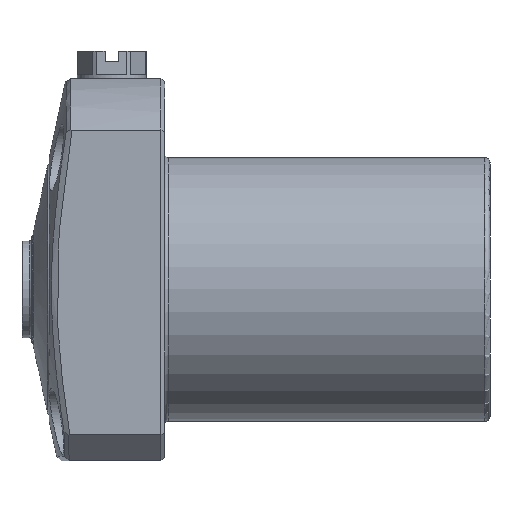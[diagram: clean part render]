
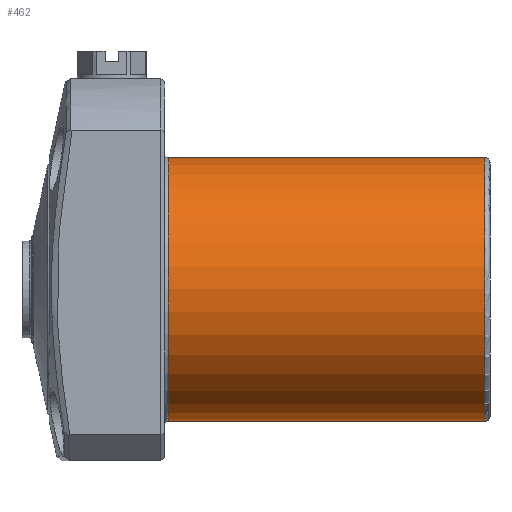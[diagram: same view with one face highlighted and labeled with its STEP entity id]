
A CAD part, left-side view. The second image highlights one B-rep face of the part: STEP entity #462.
In plain terms, the highlighted cylindrical face has radius 15 mm (diameter 30 mm), a partial arc.
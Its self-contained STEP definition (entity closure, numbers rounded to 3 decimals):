
#462=ADVANCED_FACE('',(#718),#586,.T.);
#586=CYLINDRICAL_SURFACE('',#3411,15.);
#718=FACE_OUTER_BOUND('',#921,.T.);
#921=EDGE_LOOP('',(#1893,#1894,#1895,#1896));
#1142=LINE('',#5311,#1317);
#1143=LINE('',#5313,#1318);
#1317=VECTOR('',#4073,1.);
#1318=VECTOR('',#4076,1.);
#1893=ORIENTED_EDGE('',*,*,#2746,.F.);
#1894=ORIENTED_EDGE('',*,*,#2850,.T.);
#1895=ORIENTED_EDGE('',*,*,#2748,.T.);
#1896=ORIENTED_EDGE('',*,*,#2694,.T.);
#2374=VERTEX_POINT('',#5118);
#2375=VERTEX_POINT('',#5120);
#2379=VERTEX_POINT('',#5147);
#2380=VERTEX_POINT('',#5149);
#2694=EDGE_CURVE('',#2380,#2379,#3010,.T.);
#2746=EDGE_CURVE('',#2374,#2379,#1142,.T.);
#2748=EDGE_CURVE('',#2375,#2380,#1143,.T.);
#2850=EDGE_CURVE('',#2374,#2375,#3086,.T.);
#3010=CIRCLE('',#3293,15.);
#3086=CIRCLE('',#3410,15.);
#3293=AXIS2_PLACEMENT_3D('',#5148,#3967,#3968);
#3410=AXIS2_PLACEMENT_3D('',#5942,#4260,#4261);
#3411=AXIS2_PLACEMENT_3D('',#5943,#4262,#4263);
#3967=DIRECTION('',(0.,-1.,0.));
#3968=DIRECTION('',(0.,0.,1.));
#4073=DIRECTION('',(0.,1.,0.));
#4076=DIRECTION('',(0.,1.,0.));
#4260=DIRECTION('',(0.,1.,0.));
#4261=DIRECTION('',(0.,0.,1.));
#4262=DIRECTION('',(0.,1.,0.));
#4263=DIRECTION('',(0.,0.,-1.));
#5118=CARTESIAN_POINT('',(0.,0.6,-15.));
#5120=CARTESIAN_POINT('',(0.,0.6,15.));
#5147=CARTESIAN_POINT('',(0.,36.6,-15.));
#5148=CARTESIAN_POINT('',(0.,36.6,0.));
#5149=CARTESIAN_POINT('',(0.,36.6,15.));
#5311=CARTESIAN_POINT('',(0.,53.2,-15.));
#5313=CARTESIAN_POINT('',(0.,53.2,15.));
#5942=CARTESIAN_POINT('',(0.,0.6,0.));
#5943=CARTESIAN_POINT('',(0.,53.2,0.));
